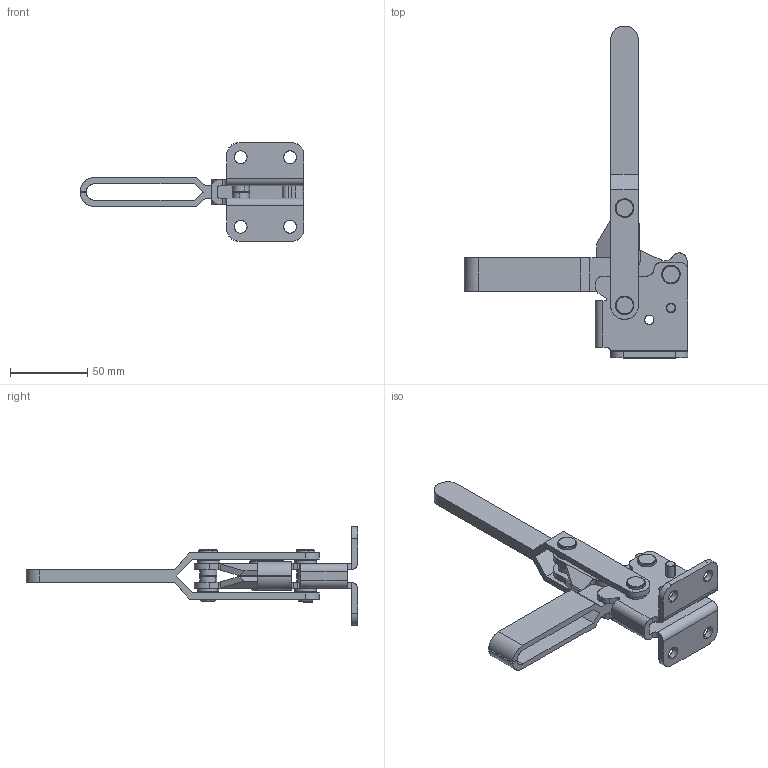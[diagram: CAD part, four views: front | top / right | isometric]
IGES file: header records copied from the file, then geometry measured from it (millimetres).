
Start section: Comment
Global section: file name: 13502b.igs; native system:  By Spatial Corp.; preprocessor: XPlus PS/IGES 3.0; author: Author; organization: Title; date: 20050216.173658; units: inch
Bounding box: 144.97 x 214.99 x 64 mm (x, y, z)
Surface area: 60958.3 mm2 (no closed solid volume)
Topology: 0 solids, 0 shells, 334 faces, 1576 edges, 1576 vertices
Faces by surface type: revolution 221, extrusion 113
